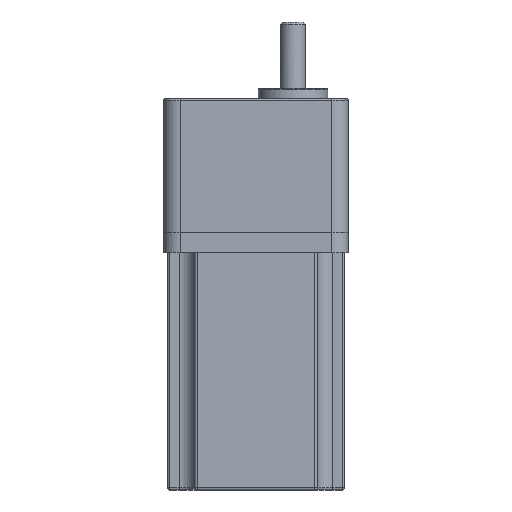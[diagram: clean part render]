
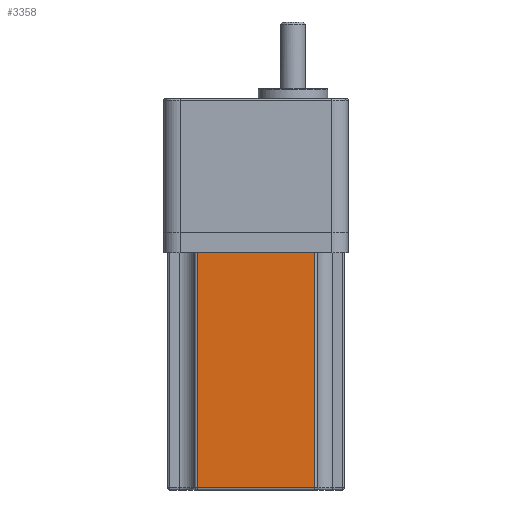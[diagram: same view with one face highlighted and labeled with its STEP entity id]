
A CAD part, front view. The second image highlights one B-rep face of the part: STEP entity #3358.
In plain terms, the highlighted planar face has unit normal (0, -1, 0).
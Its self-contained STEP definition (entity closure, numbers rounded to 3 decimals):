
#155 = DIRECTION ( 'NONE',  ( 1., 0., 0. ) ) ;
#162 = CARTESIAN_POINT ( 'NONE',  ( 47.087, -54.139, 32.25 ) ) ;
#453 = CARTESIAN_POINT ( 'NONE',  ( 47.087, -54.139, 146.75 ) ) ;
#619 = DIRECTION ( 'NONE',  ( -1., 0., 0. ) ) ;
#624 = EDGE_CURVE ( 'NONE', #2435, #2019, #2615, .T. ) ;
#695 = EDGE_CURVE ( 'NONE', #2554, #4764, #2259, .T. ) ;
#740 = CARTESIAN_POINT ( 'NONE',  ( -10.357, -54.139, 146.75 ) ) ;
#855 = ORIENTED_EDGE ( 'NONE', *, *, #967, .F. ) ;
#967 = EDGE_CURVE ( 'NONE', #2554, #2019, #1590, .T. ) ;
#1154 = EDGE_LOOP ( 'NONE', ( #855, #5287, #3198, #1276 ) ) ;
#1276 = ORIENTED_EDGE ( 'NONE', *, *, #624, .T. ) ;
#1517 = VECTOR ( 'NONE', #5264, 1000. ) ;
#1590 = LINE ( 'NONE', #4958, #1517 ) ;
#1846 = EDGE_CURVE ( 'NONE', #4764, #2435, #2053, .T. ) ;
#2019 = VERTEX_POINT ( 'NONE', #740 ) ;
#2053 = LINE ( 'NONE', #2290, #3013 ) ;
#2098 = VECTOR ( 'NONE', #155, 1000. ) ;
#2259 = LINE ( 'NONE', #162, #2098 ) ;
#2290 = CARTESIAN_POINT ( 'NONE',  ( 47.087, -54.139, 31.25 ) ) ;
#2435 = VERTEX_POINT ( 'NONE', #3637 ) ;
#2543 = DIRECTION ( 'NONE',  ( 0., 0., 1. ) ) ;
#2547 = VECTOR ( 'NONE', #619, 1000. ) ;
#2554 = VERTEX_POINT ( 'NONE', #2809 ) ;
#2615 = LINE ( 'NONE', #453, #2547 ) ;
#2711 = CARTESIAN_POINT ( 'NONE',  ( 47.087, -54.139, 32.25 ) ) ;
#2809 = CARTESIAN_POINT ( 'NONE',  ( -10.357, -54.139, 32.25 ) ) ;
#3013 = VECTOR ( 'NONE', #2543, 1000. ) ;
#3198 = ORIENTED_EDGE ( 'NONE', *, *, #1846, .T. ) ;
#3282 = FACE_OUTER_BOUND ( 'NONE', #1154, .T. ) ;
#3358 = ADVANCED_FACE ( 'NONE', ( #3282 ), #3822, .F. ) ;
#3496 = AXIS2_PLACEMENT_3D ( 'NONE', #4170, #3769, #3763 ) ;
#3637 = CARTESIAN_POINT ( 'NONE',  ( 47.087, -54.139, 146.75 ) ) ;
#3763 = DIRECTION ( 'NONE',  ( -1., 0., 0. ) ) ;
#3769 = DIRECTION ( 'NONE',  ( 0., 1., 0. ) ) ;
#3822 = PLANE ( 'NONE',  #3496 ) ;
#4170 = CARTESIAN_POINT ( 'NONE',  ( 47.087, -54.139, 31.25 ) ) ;
#4764 = VERTEX_POINT ( 'NONE', #2711 ) ;
#4958 = CARTESIAN_POINT ( 'NONE',  ( -10.357, -54.139, 31.25 ) ) ;
#5264 = DIRECTION ( 'NONE',  ( 0., 0., 1. ) ) ;
#5287 = ORIENTED_EDGE ( 'NONE', *, *, #695, .T. ) ;
